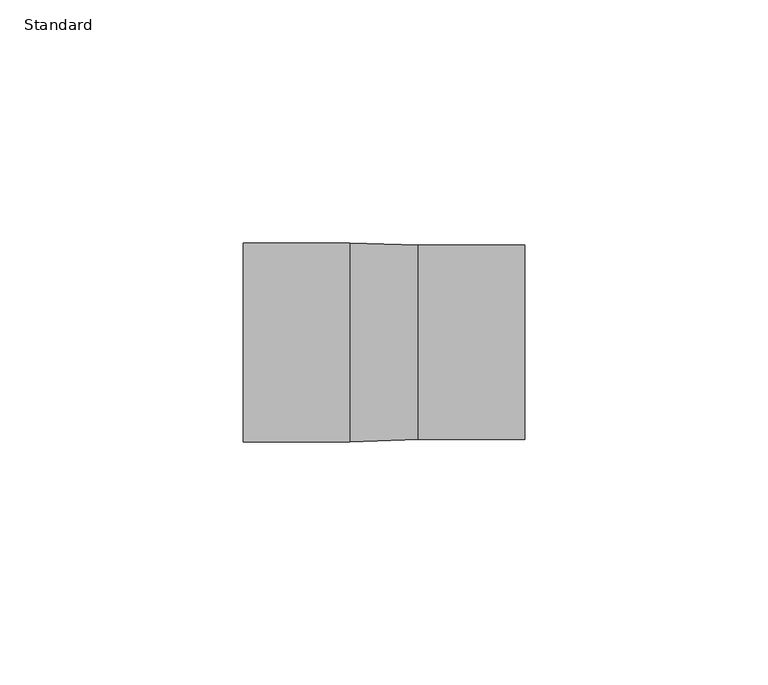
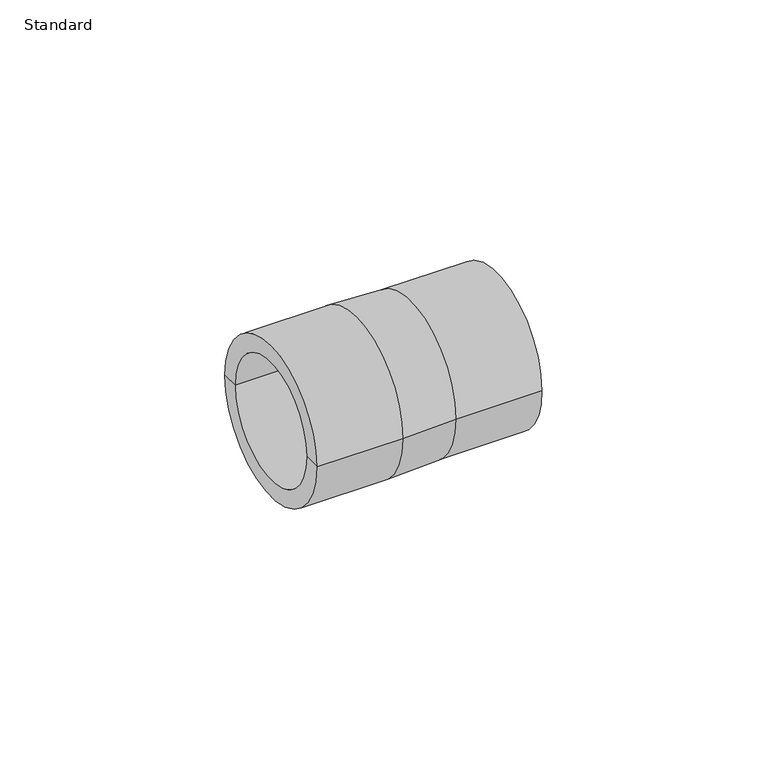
"""IFC4 building model written with IfcOpenShell, lengths in millimetres: pipe fitting geometry, Durapipe_PipeFitting_PVC_Reducers : Standard."""

from ifc_helpers import new_model, si_unit, frame, origin, place, context, project, spatial, polyline, circle_curve, source, transform, mapped, element, save
from ifc_brep_helpers import plane_surface, cylinder_surface, revolved_surface, advanced_brep


def standard_8013207e(model_context):
    return source(origin(), model_context, "Body", "AdvancedBrep", [
        advanced_brep(
        [(-29.0, -20.5, 0.0), (-29.0, 20.5, 0.0), (-7.0, 20.5, 0.0), (-7.0, -20.5, 0.0), (-29.0, -16.0, 0.0), (-29.0, 16.0, 0.0), (29.0, -20.0, 0.0), (29.0, 20.0, 0.0), (29.0, 16.0, 0.0), (29.0, -16.0, 0.0), (7.0, -20.0, 0.0), (7.0, 20.0, 0.0), (-7.0, -16.0, 0.0), (-7.0, 16.0, 0.0), (-7.0, 0.0, 0.0), (7.0, -16.0, 0.0), (7.0, 16.0, 0.0), (7.0, 0.0, 0.0)],
        [
            (0, 1, circle_curve(frame((-29.0, 0.0, 0.0), z_axis=(1.0, 0.0, 0.0), x_axis=(0.0, 1.0, 0.0)), 20.5)),
            (1, 2),
            (2, 3, circle_curve(frame((-7.0, 0.0, 0.0), z_axis=(-1.0, 0.0, 0.0), x_axis=(0.0, 1.0, 0.0)), 20.5)),
            (3, 0),
            (1, 0, circle_curve(frame((-29.0, 0.0, 0.0), z_axis=(1.0, 0.0, 0.0), x_axis=(0.0, 1.0, 0.0)), 20.5)),
            (3, 2, circle_curve(frame((-7.0, 0.0, 0.0), z_axis=(-1.0, 0.0, 0.0), x_axis=(0.0, 1.0, 0.0)), 20.5)),
            (4, 5, circle_curve(frame((-29.0, 0.0, 0.0), z_axis=(1.0, 0.0, 0.0), x_axis=(0.0, 1.0, 0.0)), 16.0)),
            (5, 1),
            (0, 4),
            (5, 4, circle_curve(frame((-29.0, 0.0, 0.0), z_axis=(1.0, 0.0, 0.0), x_axis=(0.0, 1.0, 0.0)), 16.0)),
            (6, 7, circle_curve(frame((29.0, 0.0, 0.0), z_axis=(1.0, 0.0, 0.0), x_axis=(0.0, 1.0, 0.0)), 20.0)),
            (7, 8),
            (8, 9, circle_curve(frame((29.0, 0.0, 0.0), z_axis=(-1.0, 0.0, 0.0), x_axis=(0.0, 1.0, 0.0)), 16.0)),
            (9, 6),
            (7, 6, circle_curve(frame((29.0, 0.0, 0.0), z_axis=(1.0, 0.0, 0.0), x_axis=(0.0, 1.0, 0.0)), 20.0)),
            (9, 8, circle_curve(frame((29.0, 0.0, 0.0), z_axis=(-1.0, 0.0, 0.0), x_axis=(0.0, 1.0, 0.0)), 16.0)),
            (10, 11, circle_curve(frame((7.0, 0.0, 0.0), z_axis=(1.0, 0.0, 0.0), x_axis=(0.0, 1.0, 0.0)), 20.0)),
            (11, 7),
            (6, 10),
            (11, 10, circle_curve(frame((7.0, 0.0, 0.0), z_axis=(1.0, 0.0, 0.0), x_axis=(0.0, 1.0, 0.0)), 20.0)),
            (2, 11),
            (10, 3),
            (12, 13, circle_curve(frame((-7.0, 0.0, 0.0), z_axis=(1.0, 0.0, 0.0), x_axis=(0.0, 1.0, 0.0)), 16.0)),
            (13, 5),
            (4, 12),
            (13, 12, circle_curve(frame((-7.0, 0.0, 0.0), z_axis=(1.0, 0.0, 0.0), x_axis=(0.0, 1.0, 0.0)), 16.0)),
            (14, 13),
            (12, 14),
            (15, 16, circle_curve(frame((7.0, 0.0, 0.0), z_axis=(1.0, 0.0, 0.0), x_axis=(0.0, 1.0, 0.0)), 16.0)),
            (16, 17),
            (17, 15),
            (16, 15, circle_curve(frame((7.0, 0.0, 0.0), z_axis=(1.0, 0.0, 0.0), x_axis=(0.0, 1.0, 0.0)), 16.0)),
            (8, 16),
            (15, 9),
        ],
        [
            cylinder_surface(frame((-29.0, 0.0, 0.0), z_axis=(-1.0, 0.0, 0.0), x_axis=(0.0, 1.0, 0.0)), 20.5),
            plane_surface(frame((-29.0, 0.0, 0.0), z_axis=(-1.0, 0.0, 0.0), x_axis=(0.0, 1.0, 0.0))),
            plane_surface(frame((29.0, 0.0, 0.0), z_axis=(1.0, 0.0, 0.0), x_axis=(0.0, 1.0, 0.0))),
            cylinder_surface(frame((-29.0, 0.0, 0.0), z_axis=(-1.0, 0.0, 0.0), x_axis=(0.0, 1.0, 0.0)), 20.0),
            revolved_surface(polyline([(7.0, 20.0, 0.0), (-7.0, 20.5, 0.0)]), (-29.0, 0.0, 0.0), (-1.0, 0.0, 0.0)),
            revolved_surface(polyline([(-29.0, 16.0, 0.0), (-7.0, 16.0, 0.0)]), (-29.0, 0.0, 0.0), (-1.0, 0.0, 0.0)),
            plane_surface(frame((-7.0, 0.0, 0.0), z_axis=(-1.0, 0.0, 0.0), x_axis=(0.0, 1.0, 0.0))),
            plane_surface(frame((7.0, 0.0, 0.0), z_axis=(1.0, 0.0, 0.0), x_axis=(0.0, 1.0, 0.0))),
            revolved_surface(polyline([(7.0, 16.0, 0.0), (29.0, 16.0, 0.0)]), (-29.0, 0.0, 0.0), (-1.0, 0.0, 0.0)),
        ],
        [
            (0, [[1, 2, 3, 4]]),
            (0, [[5, -4, 6, -2]]),
            (1, [[7, 8, -1, 9]]),
            (1, [[10, -9, -5, -8]]),
            (2, [[11, 12, 13, 14]]),
            (2, [[15, -14, 16, -12]]),
            (3, [[17, 18, -11, 19]]),
            (3, [[20, -19, -15, -18]]),
            (4, [[-3, 21, -17, 22]]),
            (4, [[-6, -22, -20, -21]]),
            (5, [[23, 24, -7, 25]]),
            (5, [[26, -25, -10, -24]]),
            (6, [[27, -23, 28]]),
            (6, [[-28, -26, -27]]),
            (7, [[29, 30, 31]]),
            (7, [[32, -31, -30]]),
            (8, [[-13, 33, -29, 34]]),
            (8, [[-16, -34, -32, -33]]),
        ],
    ),
    ])


if __name__ == "__main__":
    model = new_model("IFC4")
    model_context = context("Model", 3, world=origin())
    ifc_project = project(units=[si_unit("LENGTHUNIT", "METRE", prefix="MILLI")], contexts=[model_context])
    site = spatial("IfcSite", under=ifc_project)
    building = spatial("IfcBuilding", under=site)
    placement = place(None, origin())
    standard_shape = standard_8013207e(model_context)
    element("IfcPipeFitting", 1, ObjectType="Durapipe_PipeFitting_PVC_Reducers : Standard", at=placement, inside=building, context=model_context, shape_type="MappedRepresentation", body=[
        mapped(standard_shape, transform((0.0, 0.0, 0.0), x_axis=(1.0, 0.0, 0.0), y_axis=(0.0, 1.0, 0.0), z_axis=(0.0, 0.0, 1.0))),
    ])
    save(model, "model.ifc")
